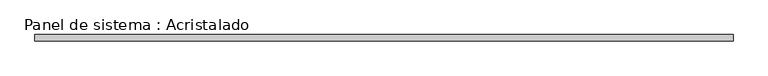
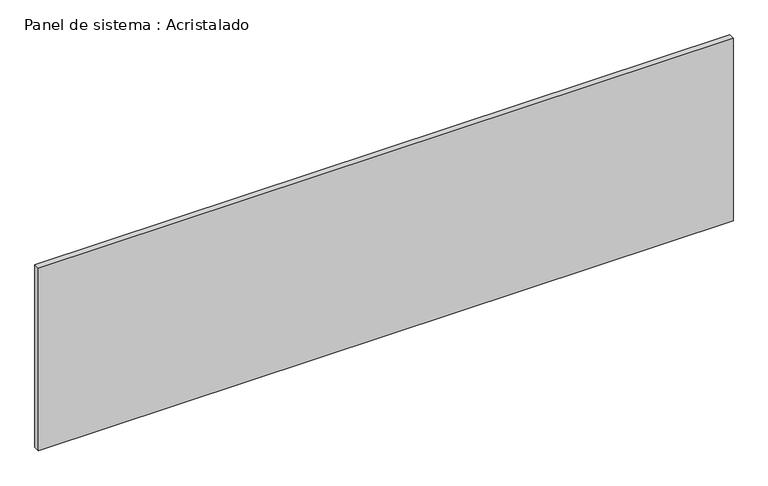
"""IFC4 building model written with IfcOpenShell, lengths in millimetres: plate geometry, Panel de sistema : Acristalado."""

import ifcopenshell
import ifcopenshell.guid

model = None  # the IFC model being written
_history = None  # IfcOwnerHistory: only IFC2X3 demands one
_inside = {}  # id of a spatial element -> (the spatial element, [elements in it])
_under = {}  # id of a project, library or spatial element -> (it, [spatial elements below it])
_declared = {}  # id of a project -> (the project, [libraries it declares])
_typed = {}  # id of a type object -> (the type object, [elements of that type])
_made_of = {}  # id of a material, layer set ... -> (it, [elements and type objects made of it])


def new_model(schema):
    """Start an empty IFC model of exactly this schema.

    Asked for "IFC4X3", IfcOpenShell would pick the latest addendum, in which some entities
    have other attributes; the version numbers below select the first issue.
    IFC2X3 requires an IfcOwnerHistory on every rooted entity: one is made here for all.
    """
    global model, _history
    if schema == "IFC4X3":
        model = ifcopenshell.file(schema_version=(4, 3, 0, 0))
    else:
        model = ifcopenshell.file(schema=schema)
    _inside.clear()
    _under.clear()
    _declared.clear()
    _typed.clear()
    _made_of.clear()
    _history = None
    if model.schema == "IFC2X3":
        org = make("IfcOrganization", Name="unknown")
        user = make(
            "IfcPersonAndOrganization",
            ThePerson=make("IfcPerson", FamilyName="unknown"),
            TheOrganization=org,
        )
        app = make(
            "IfcApplication",
            ApplicationDeveloper=org,
            Version="unknown",
            ApplicationFullName="unknown",
            ApplicationIdentifier="unknown",
        )
        _history = make(
            "IfcOwnerHistory",
            OwningUser=user,
            OwningApplication=app,
            ChangeAction="ADDED",
            CreationDate=0,
        )
    return model


def make(cls, **values):
    """One entity of the class cls with the attributes given. An attribute that is None is left unset."""
    return model.create_entity(
        cls, **{name: value for name, value in values.items() if value is not None}
    )


def rooted(cls, **values):
    """An entity with a GlobalId (a new one), such as an element, a storey or a relation."""
    return make(cls, GlobalId=ifcopenshell.guid.new(), OwnerHistory=_history, **values)


def si_unit(unit_type, name, prefix=None):
    """IfcSIUnit, for example si_unit("LENGTHUNIT", "METRE", prefix="MILLI")."""
    return make("IfcSIUnit", UnitType=unit_type, Prefix=prefix, Name=name)


def assignment(units):
    """IfcUnitAssignment: the units of a project."""
    return None if units is None else make("IfcUnitAssignment", Units=units)


def point(xyz):
    """IfcCartesianPoint."""
    return None if xyz is None else make("IfcCartesianPoint", Coordinates=xyz)


def direction(xyz):
    """IfcDirection."""
    return None if xyz is None else make("IfcDirection", DirectionRatios=xyz)


def frame(location, z_axis=None, x_axis=None):
    """IfcAxis2Placement3D, a coordinate frame: its origin and axes. An axis left out is left unset."""
    return make(
        "IfcAxis2Placement3D",
        Location=point(location),
        Axis=direction(z_axis),
        RefDirection=direction(x_axis),
    )


def origin():
    """The frame at (0, 0, 0) with its axes left unset."""
    return frame((0.0, 0.0, 0.0))


def origin_with_axes():
    """The frame at (0, 0, 0) with the z axis (0, 0, 1) and the x axis (1, 0, 0) written out."""
    return frame((0.0, 0.0, 0.0), z_axis=(0.0, 0.0, 1.0), x_axis=(1.0, 0.0, 0.0))


def place(relative_to, where):
    """IfcLocalPlacement: puts the frame where relative to a parent placement (None: the world)."""
    return make(
        "IfcLocalPlacement", PlacementRelTo=relative_to, RelativePlacement=where
    )


def context(
    kind, dimensions, precision=None, world=None, true_north=None, identifier=None
):
    """IfcGeometricRepresentationContext, for example the 3D "Model" context."""
    return make(
        "IfcGeometricRepresentationContext",
        ContextIdentifier=identifier,
        ContextType=kind,
        CoordinateSpaceDimension=dimensions,
        Precision=precision,
        WorldCoordinateSystem=world,
        TrueNorth=true_north,
    )


def project(units=None, contexts=None):
    """IfcProject with its units and contexts."""
    return rooted(
        "IfcProject",
        Name="project",
        RepresentationContexts=contexts,
        UnitsInContext=assignment(units),
    )


def spatial(cls, under=None, at=None, **own):
    """A site, building, storey or space (cls), placed at a placement, below another one or the project."""
    s = rooted(cls, ObjectPlacement=at, **own)
    if under is not None:
        _under.setdefault(under.id(), (under, []))[1].append(s)
    return s


def polyline(points):
    """IfcPolyline through the points."""
    return make("IfcPolyline", Points=[point(p) for p in points])


def outline(outer, holes=None, kind="AREA"):
    """IfcArbitraryClosedProfileDef: a profile drawn as a closed curve; with holes, ...WithVoids."""
    if holes is None:
        return make("IfcArbitraryClosedProfileDef", ProfileType=kind, OuterCurve=outer)
    return make(
        "IfcArbitraryProfileDefWithVoids",
        ProfileType=kind,
        OuterCurve=outer,
        InnerCurves=holes,
    )


def extrude(swept, where, along, depth):
    """IfcExtrudedAreaSolid: the profile swept, set in the frame where, extruded along a direction by depth."""
    return make(
        "IfcExtrudedAreaSolid",
        SweptArea=swept,
        Position=where,
        ExtrudedDirection=direction(along),
        Depth=depth,
    )


def shape(context_of_items, identifier, shape_type, items):
    """IfcShapeRepresentation: the items that make up one representation, for example the "Body"."""
    return make(
        "IfcShapeRepresentation",
        ContextOfItems=context_of_items,
        RepresentationIdentifier=identifier,
        RepresentationType=shape_type,
        Items=items,
    )


def source(mapping_origin, context_of_items, identifier, shape_type, items):
    """IfcRepresentationMap: a shape defined once, which mapped items show again and again."""
    return make(
        "IfcRepresentationMap",
        MappingOrigin=mapping_origin,
        MappedRepresentation=shape(context_of_items, identifier, shape_type, items),
    )


def transform(
    local_origin,
    x_axis=None,
    y_axis=None,
    z_axis=None,
    scale=None,
    scale2=None,
    scale3=None,
    uniform=True,
):
    """IfcCartesianTransformationOperator3D, or its non-uniform kind. x_axis, y_axis, z_axis: its Axis1, 2, 3."""
    if uniform:
        return make(
            "IfcCartesianTransformationOperator3D",
            Axis1=direction(x_axis),
            Axis2=direction(y_axis),
            LocalOrigin=point(local_origin),
            Scale=scale,
            Axis3=direction(z_axis),
        )
    return make(
        "IfcCartesianTransformationOperator3DnonUniform",
        Axis1=direction(x_axis),
        Axis2=direction(y_axis),
        LocalOrigin=point(local_origin),
        Scale=scale,
        Axis3=direction(z_axis),
        Scale2=scale2,
        Scale3=scale3,
    )


def mapped(mapping_source, mapping_target):
    """IfcMappedItem: shows the shape of a source again, moved by a transform."""
    return make(
        "IfcMappedItem", MappingSource=mapping_source, MappingTarget=mapping_target
    )


def made_of(thing, what):
    """Note that an element or type object is made of a material, layer set ...; save() writes the relation."""
    if what is not None:
        _made_of.setdefault(what.id(), (what, []))[1].append(thing)
    return thing


def element(
    cls,
    number,
    at=None,
    inside=None,
    cuts=None,
    type_object=None,
    material=None,
    context=None,
    identifier="Body",
    shape_type=None,
    held_by="IfcProductDefinitionShape",
    body=None,
    shapes=None,
    **own,
):
    """One element of the class cls, such as IfcWall. Its Tag is "e" and its number.

    at: its placement. inside: the storey or other place that contains it. cuts: it is an
    opening in that element (IfcRelVoidsElement). A single representation is given by context,
    identifier, shape_type and body (its items); several are given by shapes. held_by: the class
    of the entity that holds the representations. save() writes the other relations.
    """
    e = rooted(cls, Tag="e%d" % number, ObjectPlacement=at, **own)
    if body is not None:
        shapes = [shape(context, identifier, shape_type, body)]
    if shapes is not None:
        e.Representation = make(held_by, Representations=shapes)
    if inside is not None:
        _inside.setdefault(inside.id(), (inside, []))[1].append(e)
    if cuts is not None:
        rooted(
            "IfcRelVoidsElement", RelatingBuildingElement=cuts, RelatedOpeningElement=e
        )
    if type_object is not None:
        _typed.setdefault(type_object.id(), (type_object, []))[1].append(e)
    return made_of(e, material)


def aggregate(whole, parts):
    """IfcRelAggregates: a whole, such as a stair, and the parts it consists of."""
    return rooted("IfcRelAggregates", RelatingObject=whole, RelatedObjects=parts)


def save(model, path):
    """Write the relations noted so far, then the file.

    IfcRelAggregates (storeys below a building ...), IfcRelContainedInSpatialStructure (elements
    in a storey), IfcRelDefinesByType, IfcRelAssociatesMaterial and IfcRelDeclares: one each for
    every whole, place, type object, material and project.
    """
    for whole, parts in _under.values():
        aggregate(whole, parts)
    for where, things in _inside.values():
        rooted(
            "IfcRelContainedInSpatialStructure",
            RelatedElements=things,
            RelatingStructure=where,
        )
    for kind, things in _typed.values():
        rooted("IfcRelDefinesByType", RelatedObjects=things, RelatingType=kind)
    for what, things in _made_of.values():
        rooted("IfcRelAssociatesMaterial", RelatedObjects=things, RelatingMaterial=what)
    for by, libraries in _declared.values():
        rooted("IfcRelDeclares", RelatingContext=by, RelatedDefinitions=libraries)
    model.write(path)


def panel_de_sistema_acristalado_0b924559(model_context):
    return source(origin(), model_context, "Body", "SweptSolid", [
        extrude(outline(polyline([(1130.0, -10.0), (-1130.0, -10.0), (-1130.0, 10.0), (1130.0, 10.0), (1130.0, -10.0)])), origin_with_axes(), (0.0, 0.0, 1.0), 627.5),
    ])


if __name__ == "__main__":
    model = new_model("IFC4")
    model_context = context("Model", 3, world=origin())
    ifc_project = project(units=[si_unit("LENGTHUNIT", "METRE", prefix="MILLI")], contexts=[model_context])
    site = spatial("IfcSite", under=ifc_project)
    building = spatial("IfcBuilding", under=site)
    placement = place(None, origin())
    panel_de_sistema_acristalado_shape = panel_de_sistema_acristalado_0b924559(model_context)
    element("IfcPlate", 1, ObjectType="Panel de sistema : Acristalado", at=placement, inside=building, context=model_context, shape_type="MappedRepresentation", body=[
        mapped(panel_de_sistema_acristalado_shape, transform((0.0, 0.0, 0.0), x_axis=(1.0, 0.0, 0.0), y_axis=(0.0, 1.0, 0.0), z_axis=(0.0, 0.0, 1.0))),
    ])
    save(model, "model.ifc")
